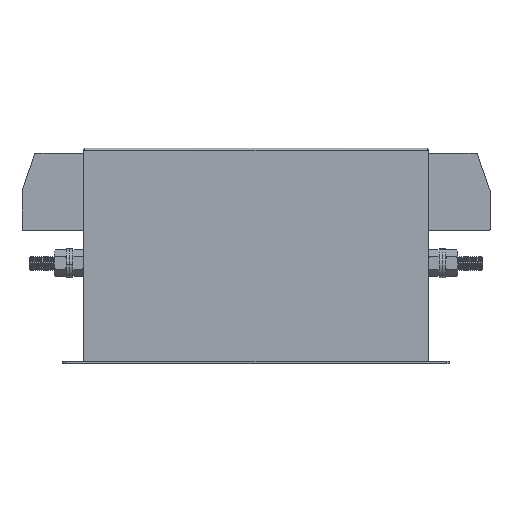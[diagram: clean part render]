
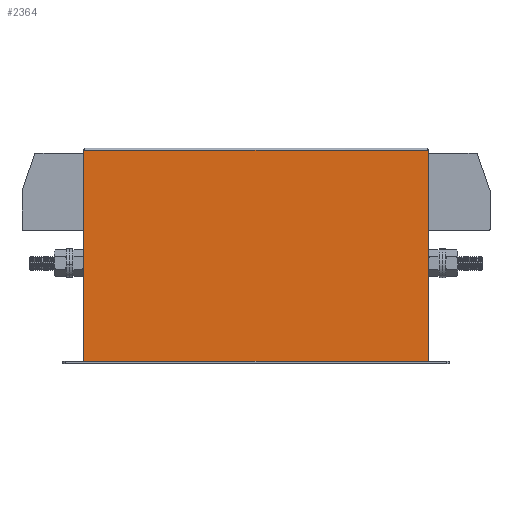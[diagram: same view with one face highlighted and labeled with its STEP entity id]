
A CAD part, top view. The second image highlights one B-rep face of the part: STEP entity #2364.
In plain terms, the highlighted planar face has unit normal (0, 0, 1).
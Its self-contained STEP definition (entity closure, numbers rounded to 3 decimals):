
#2295 = VERTEX_POINT ( 'NONE', #7248 ) ;
#2301 = VERTEX_POINT ( 'NONE', #7305 ) ;
#2303 = EDGE_CURVE ( 'NONE', #2295, #2301, #7304, .T. ) ;
#2364 = ADVANCED_FACE ( 'NONE', ( #7397 ), #7396, .F. ) ;
#2365 = EDGE_LOOP ( 'NONE', ( #2366, #2369, #2371, #2372 ) ) ;
#2366 = ORIENTED_EDGE ( 'NONE', *, *, #2367, .F. ) ;
#2367 = EDGE_CURVE ( 'NONE', #2368, #2301, #7391, .T. ) ;
#2368 = VERTEX_POINT ( 'NONE', #7387 ) ;
#2369 = ORIENTED_EDGE ( 'NONE', *, *, #2370, .T. ) ;
#2370 = EDGE_CURVE ( 'NONE', #2368, #2384, #7386, .T. ) ;
#2371 = ORIENTED_EDGE ( 'NONE', *, *, #2383, .T. ) ;
#2372 = ORIENTED_EDGE ( 'NONE', *, *, #2303, .T. ) ;
#2383 = EDGE_CURVE ( 'NONE', #2384, #2295, #7425, .T. ) ;
#2384 = VERTEX_POINT ( 'NONE', #7421 ) ;
#7248 = CARTESIAN_POINT ( 'NONE',  ( 15., 1.5, 1.5 ) ) ;
#7301 = DIRECTION ( 'NONE',  ( 1., 0., 0. ) ) ;
#7302 = VECTOR ( 'NONE', #7301, 1000. ) ;
#7303 = CARTESIAN_POINT ( 'NONE',  ( 15., 1.5, 1.5 ) ) ;
#7304 = LINE ( 'NONE', #7303, #7302 ) ;
#7305 = CARTESIAN_POINT ( 'NONE',  ( 255., 1.5, 1.5 ) ) ;
#7383 = DIRECTION ( 'NONE',  ( -1., 0., 0. ) ) ;
#7384 = VECTOR ( 'NONE', #7383, 1000. ) ;
#7385 = CARTESIAN_POINT ( 'NONE',  ( 15., 148.5, 1.5 ) ) ;
#7386 = LINE ( 'NONE', #7385, #7384 ) ;
#7387 = CARTESIAN_POINT ( 'NONE',  ( 255., 148.5, 1.5 ) ) ;
#7388 = DIRECTION ( 'NONE',  ( 0., -1., 0. ) ) ;
#7389 = VECTOR ( 'NONE', #7388, 1000. ) ;
#7390 = CARTESIAN_POINT ( 'NONE',  ( 255., 150., 1.5 ) ) ;
#7391 = LINE ( 'NONE', #7390, #7389 ) ;
#7392 = DIRECTION ( 'NONE',  ( -1., 0., 0. ) ) ;
#7393 = DIRECTION ( 'NONE',  ( 0., 0., -1. ) ) ;
#7394 = CARTESIAN_POINT ( 'NONE',  ( 15., 150., 1.5 ) ) ;
#7395 = AXIS2_PLACEMENT_3D ( 'NONE', #7394, #7393, #7392 ) ;
#7396 = PLANE ( 'NONE',  #7395 ) ;
#7397 = FACE_OUTER_BOUND ( 'NONE', #2365, .T. ) ;
#7421 = CARTESIAN_POINT ( 'NONE',  ( 15., 148.5, 1.5 ) ) ;
#7422 = DIRECTION ( 'NONE',  ( 0., -1., 0. ) ) ;
#7423 = VECTOR ( 'NONE', #7422, 1000. ) ;
#7424 = CARTESIAN_POINT ( 'NONE',  ( 15., 150., 1.5 ) ) ;
#7425 = LINE ( 'NONE', #7424, #7423 ) ;
